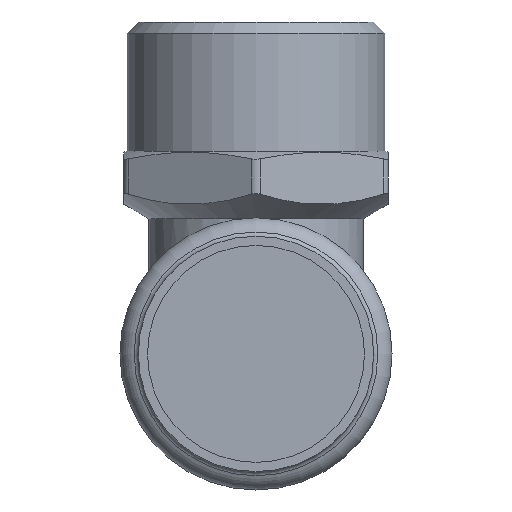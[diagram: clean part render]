
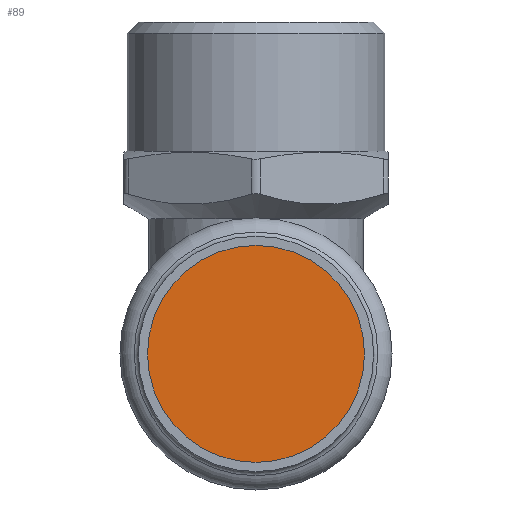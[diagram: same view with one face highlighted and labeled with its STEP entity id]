
A CAD part, front view. The second image highlights one B-rep face of the part: STEP entity #89.
In plain terms, the highlighted planar face has unit normal (0, -1, 0).
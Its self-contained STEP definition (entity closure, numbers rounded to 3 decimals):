
#89=ADVANCED_FACE('',(#388),#390,.T.);
#388=FACE_BOUND('',#389,.T.);
#389=EDGE_LOOP('',(#524));
#390=PLANE('',#391);
#391=AXIS2_PLACEMENT_3D('',#392,#393,#394);
#392=CARTESIAN_POINT('',(0.,-48.743,0.));
#393=DIRECTION('',(0.,-1.,0.));
#394=DIRECTION('',(0.,0.,-1.));
#524=ORIENTED_EDGE('',*,*,#589,.T.);
#589=EDGE_CURVE('',#706,#706,#707,.F.);
#706=VERTEX_POINT('',#1864);
#707=CIRCLE('',#1865,17.65);
#1864=CARTESIAN_POINT('',(0.,-48.743,17.65));
#1865=AXIS2_PLACEMENT_3D('',#1866,#1867,#1868);
#1866=CARTESIAN_POINT('',(0.,-48.743,0.));
#1867=DIRECTION('',(0.,1.,0.));
#1868=DIRECTION('',(0.,0.,1.));
